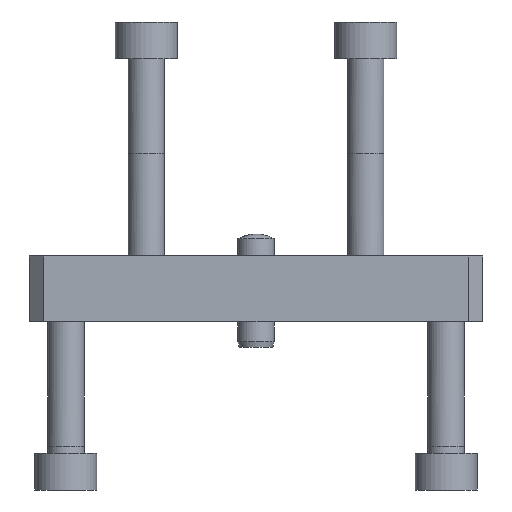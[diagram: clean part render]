
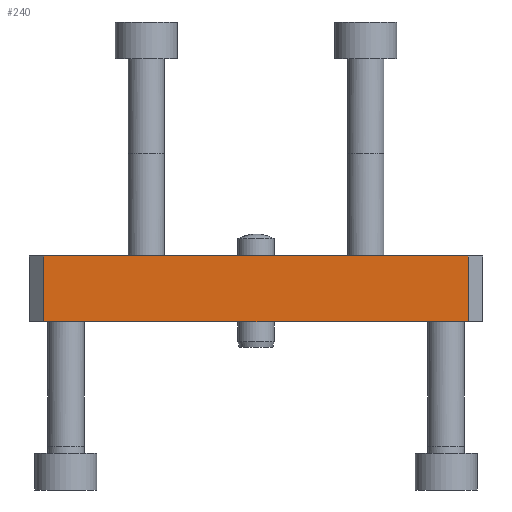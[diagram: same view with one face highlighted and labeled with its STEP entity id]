
A CAD part, left-side view. The second image highlights one B-rep face of the part: STEP entity #240.
In plain terms, the highlighted planar face has unit normal (-1, 0, 0).
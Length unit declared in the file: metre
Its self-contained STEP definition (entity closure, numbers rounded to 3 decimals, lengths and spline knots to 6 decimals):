
#240 = ADVANCED_FACE( '', ( #605 ), #606, .T. );
#605 = FACE_OUTER_BOUND( '', #1160, .T. );
#606 = PLANE( '', #1161 );
#1160 = EDGE_LOOP( '', ( #1980, #1981, #1982, #1983 ) );
#1161 = AXIS2_PLACEMENT_3D( '', #1984, #1985, #1986 );
#1980 = ORIENTED_EDGE( '', *, *, #2966, .T. );
#1981 = ORIENTED_EDGE( '', *, *, #2967, .T. );
#1982 = ORIENTED_EDGE( '', *, *, #2968, .F. );
#1983 = ORIENTED_EDGE( '', *, *, #2969, .T. );
#1984 = CARTESIAN_POINT( '', ( -0.031, -0.031, 0.009 ) );
#1985 = DIRECTION( '', ( -1., 0., 0. ) );
#1986 = DIRECTION( '', ( 0., -1., 0. ) );
#2966 = EDGE_CURVE( '', #3469, #3470, #3471, .T. );
#2967 = EDGE_CURVE( '', #3470, #3472, #3473, .T. );
#2968 = EDGE_CURVE( '', #3474, #3472, #3475, .T. );
#2969 = EDGE_CURVE( '', #3474, #3469, #3476, .T. );
#3469 = VERTEX_POINT( '', #4179 );
#3470 = VERTEX_POINT( '', #4180 );
#3471 = LINE( '', #4181, #4182 );
#3472 = VERTEX_POINT( '', #4183 );
#3473 = LINE( '', #4184, #4185 );
#3474 = VERTEX_POINT( '', #4186 );
#3475 = LINE( '', #4187, #4188 );
#3476 = LINE( '', #4189, #4190 );
#4179 = CARTESIAN_POINT( '', ( -0.031, -0.029, 0.009 ) );
#4180 = CARTESIAN_POINT( '', ( -0.031, 0.029, 0.009 ) );
#4181 = CARTESIAN_POINT( '', ( -0.031, -0.031, 0.009 ) );
#4182 = VECTOR( '', #5017, 1. );
#4183 = CARTESIAN_POINT( '', ( -0.031, 0.029, 0. ) );
#4184 = CARTESIAN_POINT( '', ( -0.031, 0.029, 0.009 ) );
#4185 = VECTOR( '', #5018, 1. );
#4186 = CARTESIAN_POINT( '', ( -0.031, -0.029, 0. ) );
#4187 = CARTESIAN_POINT( '', ( -0.031, -0.031, 0. ) );
#4188 = VECTOR( '', #5019, 1. );
#4189 = CARTESIAN_POINT( '', ( -0.031, -0.029, 0.009 ) );
#4190 = VECTOR( '', #5020, 1. );
#5017 = DIRECTION( '', ( 0., 1., 0. ) );
#5018 = DIRECTION( '', ( 0., 0., -1. ) );
#5019 = DIRECTION( '', ( 0., 1., 0. ) );
#5020 = DIRECTION( '', ( 0., 0., 1. ) );
